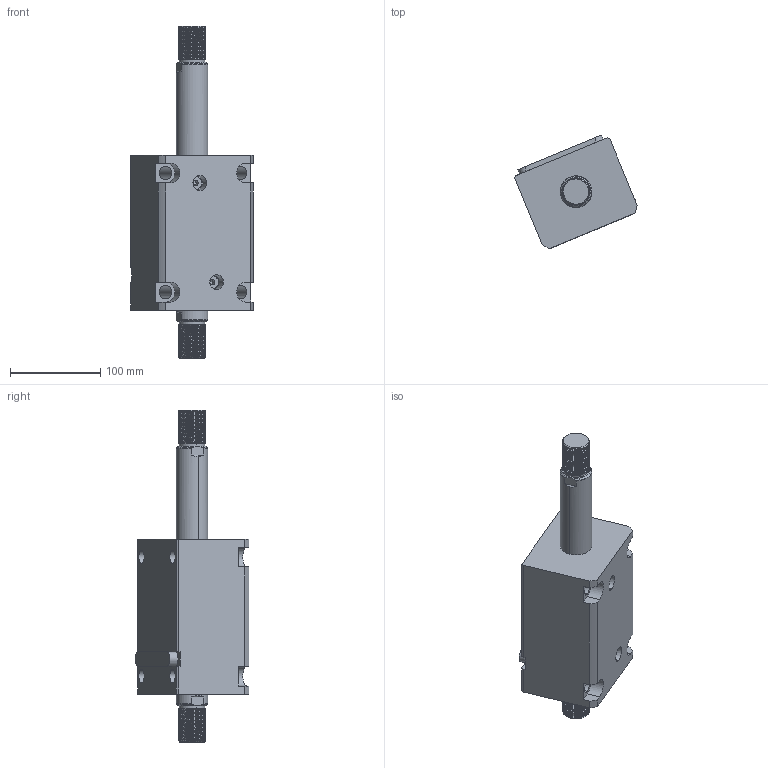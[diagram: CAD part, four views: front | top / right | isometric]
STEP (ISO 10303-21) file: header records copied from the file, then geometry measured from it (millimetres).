
FILE_DESCRIPTION (( 'STEP AP214' ), '1' );
FILE_NAME ('chtb-lw63x90w_asm.STEP', '2018-05-18T08:52:42', ( 'Windows' ), ( 'Microsoft' ), 'SwSTEP 2.0', 'SolidWorks 2015', '' );
FILE_SCHEMA (( 'AUTOMOTIVE_DESIGN' ));
Length unit declared in the file: millimetre
Products named in the file (5): CHTB-SW63X90WHSG; CHTB-LW63X90NBT; CHTB-LA63PJ; CHTB-63QG; chtb-lw63x90w_asm
Assembly tree (4 placements, depth 2):
  chtb-lw63x90w_asm
    CHTB-63QG
    CHTB-LA63PJ
    CHTB-LW63X90NBT
    CHTB-SW63X90WHSG
Bounding box: 135.77 x 126.06 x 368 mm (x, y, z)
Volume: 1633286.9 mm3; surface area: 213448 mm2
Topology: 4 solids, 4 shells, 306 faces, 889 edges, 601 vertices
Faces by surface type: cylinder 204, plane 58, bspline 16, cone 16, torus 12
Entity records: 27878 total; most frequent: CARTESIAN_POINT 20531, ORIENTED_EDGE 1770, DIRECTION 1228, EDGE_CURVE 885, VERTEX_POINT 601, AXIS2_PLACEMENT_3D 458, EDGE_LOOP 336, VECTOR 312
